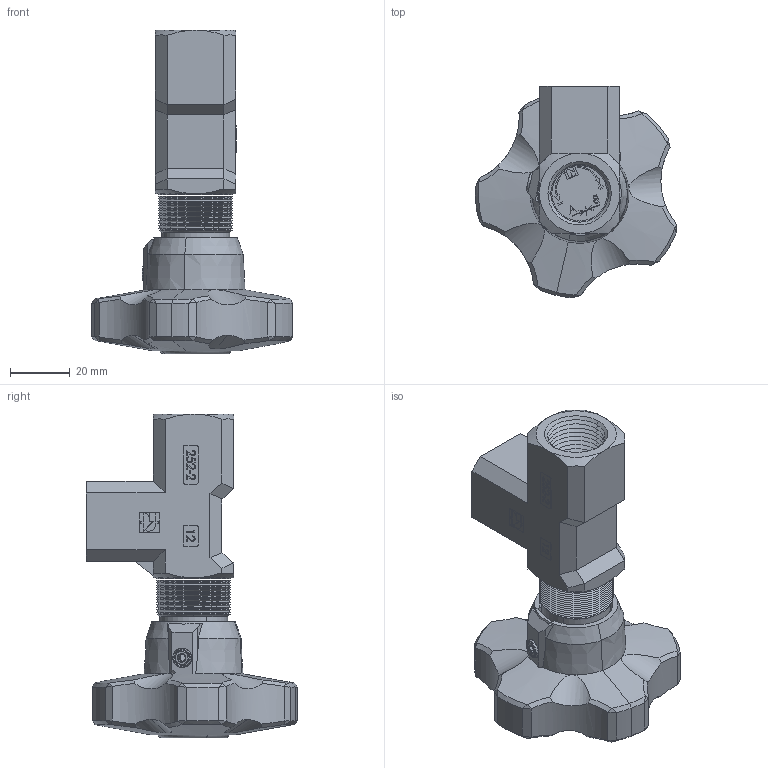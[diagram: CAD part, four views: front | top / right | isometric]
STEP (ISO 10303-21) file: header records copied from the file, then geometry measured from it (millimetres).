
FILE_DESCRIPTION (( 'STEP AP214' ), '1' );
FILE_NAME ('252-2-12 VOLANTINO ABS F-F.STEP', '2015-05-15T15:42:18', ( '' ), ( '' ), 'SwSTEP 2.0', 'SolidWorks 2014', '' );
FILE_SCHEMA (( 'AUTOMOTIVE_DESIGN' ));
Length unit declared in the file: millimetre
Products named in the file (1): 252-2-12 VOLANTINO ABS F-F
Bounding box: 67.55 x 70.91 x 108.75 mm (x, y, z)
Surface area: 24820.6 mm2 (no closed solid volume)
Topology: 0 solids, 23 shells, 521 faces, 1830 edges, 1272 vertices
Faces by surface type: plane 254, cone 143, cylinder 81, bspline 41, torus 2
Entity records: 31610 total; most frequent: CARTESIAN_POINT 10910, DIRECTION 2907, ORIENTED_EDGE 2906, EDGE_CURVE 1830, VERTEX_POINT 1272, VECTOR 1085, LINE 1085, AXIS2_PLACEMENT_3D 911
